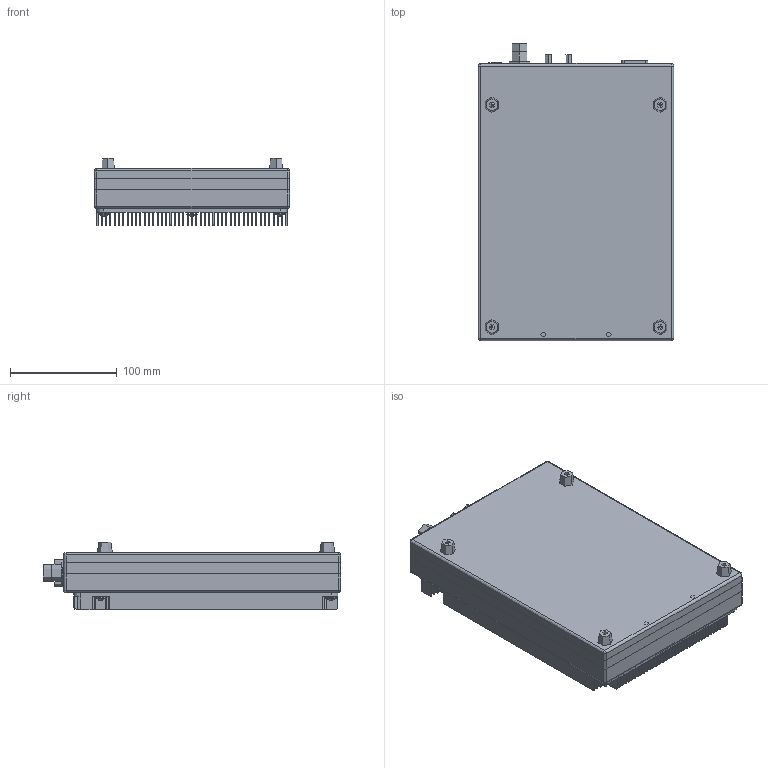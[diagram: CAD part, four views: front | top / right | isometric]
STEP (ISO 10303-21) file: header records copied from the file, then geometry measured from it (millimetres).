
FILE_DESCRIPTION (( 'STEP AP214' ), '1' );
FILE_NAME ('ASSY SM200A1-D1HS.STEP', '2021-01-08T17:24:12', ( '' ), ( '' ), 'SwSTEP 2.0', 'SolidWorks 2020', '' );
FILE_SCHEMA (( 'AUTOMOTIVE_DESIGN' ));
Length unit declared in the file: inch
Products named in the file (1): ASSY SM200A1-D1HS
Bounding box: 183.13 x 278.49 x 62.97 mm (x, y, z)
Topology: 0 solids, 34 shells, 643 faces, 2429 edges, 1837 vertices
Faces by surface type: plane 349, cylinder 221, cone 36, sphere 18, torus 18, bspline 1
Entity records: 36444 total; most frequent: CARTESIAN_POINT 16640, ORIENTED_EDGE 3933, DIRECTION 3766, EDGE_CURVE 2420, VERTEX_POINT 1838, LINE 1324, VECTOR 1324, AXIS2_PLACEMENT_3D 1221
